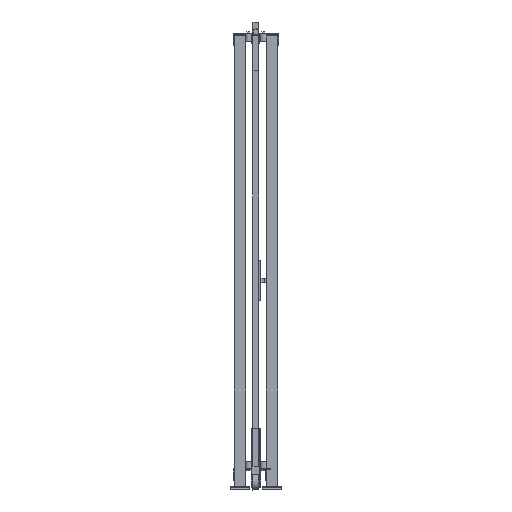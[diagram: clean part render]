
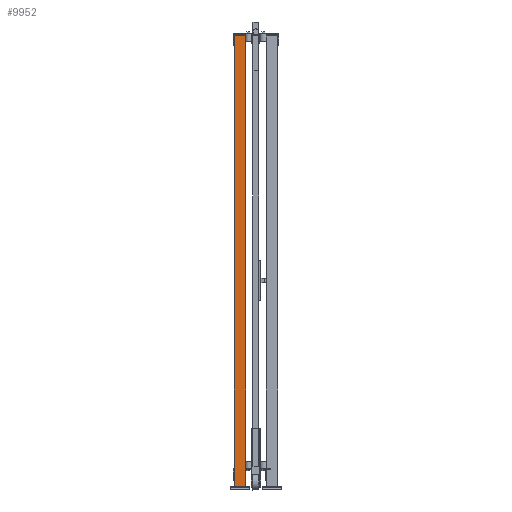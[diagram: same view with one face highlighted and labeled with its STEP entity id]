
A CAD part, left-side view. The second image highlights one B-rep face of the part: STEP entity #9952.
In plain terms, the highlighted planar face has unit normal (-1, 0, 0) as drawn and (0, 1, 0) by its records, which use the part's own axes.
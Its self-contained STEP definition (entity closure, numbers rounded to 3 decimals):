
#1036=FACE_OUTER_BOUND('',#1788,.T.);
#1788=EDGE_LOOP('',(#6242,#6243,#6244,#6245));
#2639=VERTEX_POINT('',#21149);
#2640=VERTEX_POINT('',#21151);
#2642=VERTEX_POINT('',#21157);
#2645=VERTEX_POINT('',#21162);
#4059=EDGE_CURVE('',#2639,#2640,#11723,.T.);
#4065=EDGE_CURVE('',#2645,#2642,#11729,.T.);
#4068=EDGE_CURVE('',#2640,#2645,#11732,.T.);
#4069=EDGE_CURVE('',#2639,#2642,#11733,.T.);
#6242=ORIENTED_EDGE('',*,*,#4069,.T.);
#6243=ORIENTED_EDGE('',*,*,#4065,.F.);
#6244=ORIENTED_EDGE('',*,*,#4068,.F.);
#6245=ORIENTED_EDGE('',*,*,#4059,.F.);
#9268=PLANE('',#15002);
#9952=ADVANCED_FACE('',(#1036),#9268,.F.);
#11723=LINE('',#21152,#13497);
#11729=LINE('',#21164,#13503);
#11732=LINE('',#21169,#13506);
#11733=LINE('',#21171,#13507);
#13497=VECTOR('',#16718,1.);
#13503=VECTOR('',#16726,1.);
#13506=VECTOR('',#16733,1.);
#13507=VECTOR('',#16736,1.);
#15002=AXIS2_PLACEMENT_3D('',#21170,#16734,#16735);
#16718=DIRECTION('',(-1.,0.,0.));
#16726=DIRECTION('',(1.,0.,0.));
#16733=DIRECTION('',(0.,0.,-1.));
#16734=DIRECTION('center_axis',(0.,-1.,0.));
#16735=DIRECTION('ref_axis',(0.,0.,-1.));
#16736=DIRECTION('',(0.,0.,-1.));
#21149=CARTESIAN_POINT('',(30.,30.,2320.));
#21151=CARTESIAN_POINT('',(-30.,30.,2320.));
#21152=CARTESIAN_POINT('',(0.,30.,2320.));
#21157=CARTESIAN_POINT('',(30.,30.,20.));
#21162=CARTESIAN_POINT('',(-30.,30.,20.));
#21164=CARTESIAN_POINT('',(0.,30.,20.));
#21169=CARTESIAN_POINT('',(-30.,30.,1170.));
#21170=CARTESIAN_POINT('Origin',(0.,30.,
1170.));
#21171=CARTESIAN_POINT('',(30.,30.,1170.));
